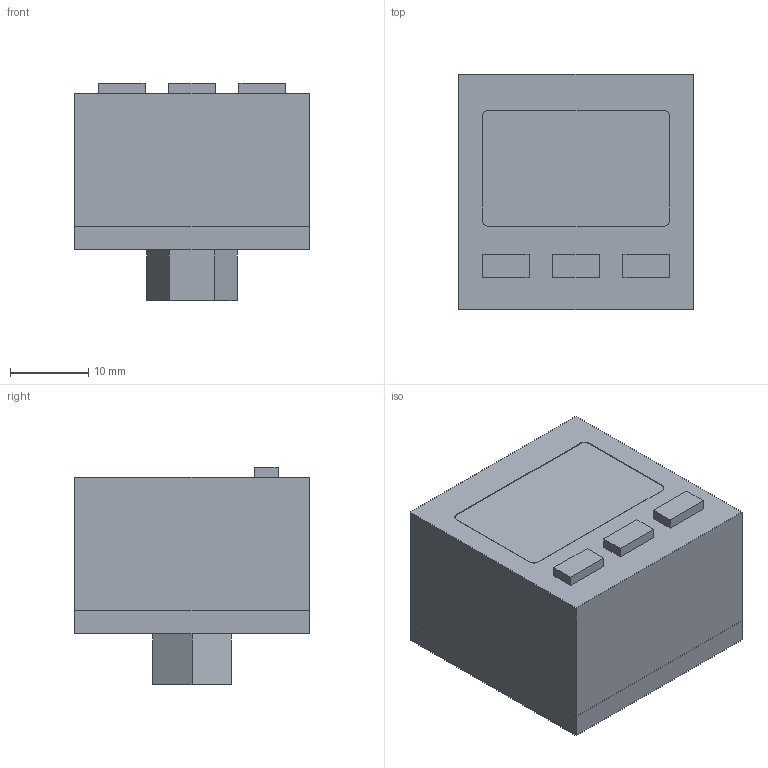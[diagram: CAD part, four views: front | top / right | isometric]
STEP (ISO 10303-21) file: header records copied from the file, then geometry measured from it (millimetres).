
FILE_DESCRIPTION (( 'STEP AP203' ), '1' );
FILE_NAME ('dp-001c.STEP', '2015-04-22T08:07:32', ( '' ), ( '' ), 'SwSTEP 2.0', 'SolidWorks 2010', '' );
FILE_SCHEMA (( 'CONFIG_CONTROL_DESIGN' ));
Length unit declared in the file: millimetre
Products named in the file (1): dp-001c
Bounding box: 30 x 30 x 27.8 mm (x, y, z)
Volume: 17629.7 mm3; surface area: 5093 mm2
Topology: 1 solids, 1 shells, 66 faces, 158 edges, 104 vertices
Faces by surface type: plane 52, cylinder 14
Entity records: 1975 total; most frequent: CARTESIAN_POINT 329, DIRECTION 320, ORIENTED_EDGE 316, EDGE_CURVE 158, VECTOR 130, LINE 130, VERTEX_POINT 104, AXIS2_PLACEMENT_3D 95
